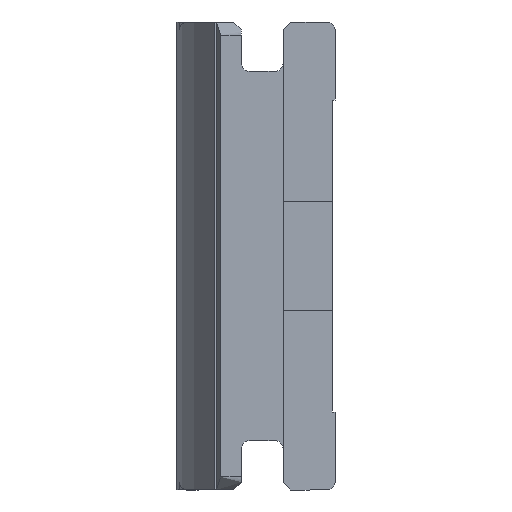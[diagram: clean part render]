
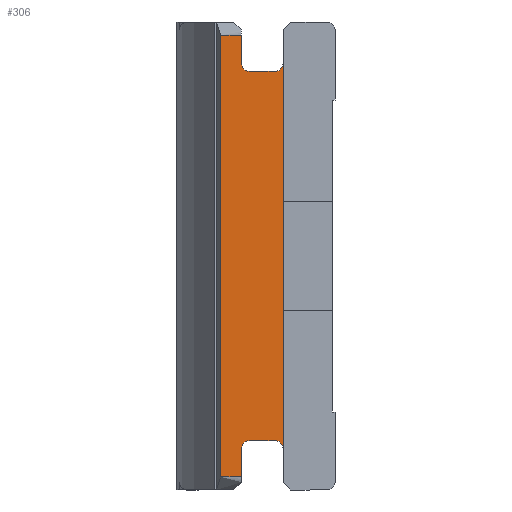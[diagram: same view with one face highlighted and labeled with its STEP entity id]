
A CAD part, left-side view. The second image highlights one B-rep face of the part: STEP entity #306.
In plain terms, the highlighted planar face has unit normal (-1, 0, 0).
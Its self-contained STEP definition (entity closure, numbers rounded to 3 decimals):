
#14 = VECTOR ( 'NONE', #1567, 1000. ) ;
#34 = EDGE_CURVE ( 'NONE', #1095, #121, #409, .T. ) ;
#39 = CARTESIAN_POINT ( 'NONE',  ( 10., 3.2, 7.4 ) ) ;
#51 = CARTESIAN_POINT ( 'NONE',  ( 10., 3.5, -8.5 ) ) ;
#71 = VECTOR ( 'NONE', #1374, 1000. ) ;
#102 = EDGE_CURVE ( 'NONE', #1826, #1308, #1755, .T. ) ;
#111 = DIRECTION ( 'NONE',  ( 0., 0., -1. ) ) ;
#114 = LINE ( 'NONE', #793, #71 ) ;
#120 = CARTESIAN_POINT ( 'NONE',  ( 10., 3.5, 8.5 ) ) ;
#121 = VERTEX_POINT ( 'NONE', #1195 ) ;
#124 = LINE ( 'NONE', #848, #14 ) ;
#154 = ORIENTED_EDGE ( 'NONE', *, *, #1605, .F. ) ;
#157 = DIRECTION ( 'NONE',  ( 0., 1., 0. ) ) ;
#210 = EDGE_CURVE ( 'NONE', #121, #1345, #114, .T. ) ;
#222 = FACE_OUTER_BOUND ( 'NONE', #816, .T. ) ;
#228 = VERTEX_POINT ( 'NONE', #960 ) ;
#233 = EDGE_CURVE ( 'NONE', #812, #1308, #124, .T. ) ;
#238 = CARTESIAN_POINT ( 'NONE',  ( 10., 2.2, 7.4 ) ) ;
#261 = ORIENTED_EDGE ( 'NONE', *, *, #233, .F. ) ;
#292 = CARTESIAN_POINT ( 'NONE',  ( 10., 1.9, 8.5 ) ) ;
#306 = ADVANCED_FACE ( 'NONE', ( #222 ), #782, .F. ) ;
#375 = CARTESIAN_POINT ( 'NONE',  ( 10., 3.2, -7.1 ) ) ;
#395 = VECTOR ( 'NONE', #111, 1000. ) ;
#409 = CIRCLE ( 'NONE', #1316, 0.3 ) ;
#424 = DIRECTION ( 'NONE',  ( -1., 0., 0. ) ) ;
#426 = VECTOR ( 'NONE', #1609, 1000. ) ;
#433 = VERTEX_POINT ( 'NONE', #1137 ) ;
#437 = CIRCLE ( 'NONE', #1504, 0.3 ) ;
#441 = EDGE_CURVE ( 'NONE', #433, #749, #437, .T. ) ;
#451 = ORIENTED_EDGE ( 'NONE', *, *, #574, .F. ) ;
#455 = CIRCLE ( 'NONE', #1870, 0.3 ) ;
#465 = CARTESIAN_POINT ( 'NONE',  ( 10., 1.9, -7.4 ) ) ;
#486 = DIRECTION ( 'NONE',  ( 0., 0., -1. ) ) ;
#489 = DIRECTION ( 'NONE',  ( 0., 0., -1. ) ) ;
#504 = VERTEX_POINT ( 'NONE', #1293 ) ;
#556 = CARTESIAN_POINT ( 'NONE',  ( 10., 4.3, -8.5 ) ) ;
#565 = EDGE_CURVE ( 'NONE', #1520, #504, #1617, .T. ) ;
#574 = EDGE_CURVE ( 'NONE', #1537, #433, #875, .T. ) ;
#622 = AXIS2_PLACEMENT_3D ( 'NONE', #1215, #1787, #489 ) ;
#668 = EDGE_CURVE ( 'NONE', #1520, #228, #951, .T. ) ;
#684 = CARTESIAN_POINT ( 'NONE',  ( 10., 1.9, -29.536 ) ) ;
#705 = VECTOR ( 'NONE', #908, 1000. ) ;
#715 = DIRECTION ( 'NONE',  ( 0., 0., -1. ) ) ;
#736 = ORIENTED_EDGE ( 'NONE', *, *, #565, .T. ) ;
#737 = CARTESIAN_POINT ( 'NONE',  ( 10., 3.2, 7.1 ) ) ;
#749 = VERTEX_POINT ( 'NONE', #1065 ) ;
#782 = PLANE ( 'NONE',  #622 ) ;
#792 = VECTOR ( 'NONE', #157, 1000. ) ;
#793 = CARTESIAN_POINT ( 'NONE',  ( 10., 3.2, -7.1 ) ) ;
#812 = VERTEX_POINT ( 'NONE', #1272 ) ;
#816 = EDGE_LOOP ( 'NONE', ( #1393, #736, #839, #1277, #261, #965, #1643, #1407, #1043, #1590, #451, #154 ) ) ;
#839 = ORIENTED_EDGE ( 'NONE', *, *, #1655, .F. ) ;
#843 = DIRECTION ( 'NONE',  ( -1., 0., 0. ) ) ;
#848 = CARTESIAN_POINT ( 'NONE',  ( 10., 3.5, -8.7 ) ) ;
#875 = LINE ( 'NONE', #737, #705 ) ;
#908 = DIRECTION ( 'NONE',  ( 0., -1., 0. ) ) ;
#916 = CARTESIAN_POINT ( 'NONE',  ( 10., 3.5, 8.7 ) ) ;
#951 = LINE ( 'NONE', #916, #1553 ) ;
#960 = CARTESIAN_POINT ( 'NONE',  ( 10., 3.5, 7.4 ) ) ;
#965 = ORIENTED_EDGE ( 'NONE', *, *, #1027, .F. ) ;
#1027 = EDGE_CURVE ( 'NONE', #1345, #812, #1342, .T. ) ;
#1043 = ORIENTED_EDGE ( 'NONE', *, *, #1521, .F. ) ;
#1048 = CARTESIAN_POINT ( 'NONE',  ( 10., 1.9, -8.5 ) ) ;
#1055 = CARTESIAN_POINT ( 'NONE',  ( 10., 2.2, -7.4 ) ) ;
#1065 = CARTESIAN_POINT ( 'NONE',  ( 10., 1.9, 7.4 ) ) ;
#1095 = VERTEX_POINT ( 'NONE', #465 ) ;
#1109 = VECTOR ( 'NONE', #1623, 1000. ) ;
#1137 = CARTESIAN_POINT ( 'NONE',  ( 10., 2.2, 7.1 ) ) ;
#1195 = CARTESIAN_POINT ( 'NONE',  ( 10., 2.2, -7.1 ) ) ;
#1215 = CARTESIAN_POINT ( 'NONE',  ( 10., 1.9, -29.536 ) ) ;
#1250 = AXIS2_PLACEMENT_3D ( 'NONE', #1721, #424, #715 ) ;
#1272 = CARTESIAN_POINT ( 'NONE',  ( 10., 3.5, -7.4 ) ) ;
#1277 = ORIENTED_EDGE ( 'NONE', *, *, #102, .T. ) ;
#1293 = CARTESIAN_POINT ( 'NONE',  ( 10., 4.3, 8.5 ) ) ;
#1308 = VERTEX_POINT ( 'NONE', #51 ) ;
#1316 = AXIS2_PLACEMENT_3D ( 'NONE', #1055, #1648, #1631 ) ;
#1342 = CIRCLE ( 'NONE', #1250, 0.3 ) ;
#1345 = VERTEX_POINT ( 'NONE', #375 ) ;
#1374 = DIRECTION ( 'NONE',  ( 0., 1., 0. ) ) ;
#1393 = ORIENTED_EDGE ( 'NONE', *, *, #668, .F. ) ;
#1407 = ORIENTED_EDGE ( 'NONE', *, *, #34, .F. ) ;
#1409 = LINE ( 'NONE', #684, #395 ) ;
#1476 = CARTESIAN_POINT ( 'NONE',  ( 10., 4.3, -29.536 ) ) ;
#1504 = AXIS2_PLACEMENT_3D ( 'NONE', #238, #843, #1581 ) ;
#1520 = VERTEX_POINT ( 'NONE', #120 ) ;
#1521 = EDGE_CURVE ( 'NONE', #749, #1095, #1409, .T. ) ;
#1537 = VERTEX_POINT ( 'NONE', #1563 ) ;
#1553 = VECTOR ( 'NONE', #486, 1000. ) ;
#1563 = CARTESIAN_POINT ( 'NONE',  ( 10., 3.2, 7.1 ) ) ;
#1567 = DIRECTION ( 'NONE',  ( 0., 0., -1. ) ) ;
#1581 = DIRECTION ( 'NONE',  ( 0., 0., -1. ) ) ;
#1590 = ORIENTED_EDGE ( 'NONE', *, *, #441, .F. ) ;
#1605 = EDGE_CURVE ( 'NONE', #228, #1537, #455, .T. ) ;
#1609 = DIRECTION ( 'NONE',  ( 0., 0., 1. ) ) ;
#1617 = LINE ( 'NONE', #292, #792 ) ;
#1623 = DIRECTION ( 'NONE',  ( 0., -1., 0. ) ) ;
#1631 = DIRECTION ( 'NONE',  ( 0., 0., -1. ) ) ;
#1643 = ORIENTED_EDGE ( 'NONE', *, *, #210, .F. ) ;
#1648 = DIRECTION ( 'NONE',  ( -1., 0., 0. ) ) ;
#1655 = EDGE_CURVE ( 'NONE', #1826, #504, #1758, .T. ) ;
#1721 = CARTESIAN_POINT ( 'NONE',  ( 10., 3.2, -7.4 ) ) ;
#1748 = DIRECTION ( 'NONE',  ( -1., 0., 0. ) ) ;
#1755 = LINE ( 'NONE', #1048, #1109 ) ;
#1758 = LINE ( 'NONE', #1476, #426 ) ;
#1787 = DIRECTION ( 'NONE',  ( 1., 0., 0. ) ) ;
#1826 = VERTEX_POINT ( 'NONE', #556 ) ;
#1868 = DIRECTION ( 'NONE',  ( 0., 0., -1. ) ) ;
#1870 = AXIS2_PLACEMENT_3D ( 'NONE', #39, #1748, #1868 ) ;
